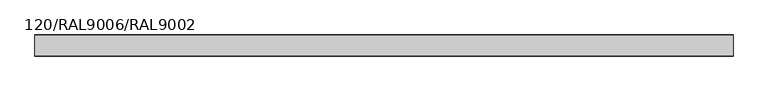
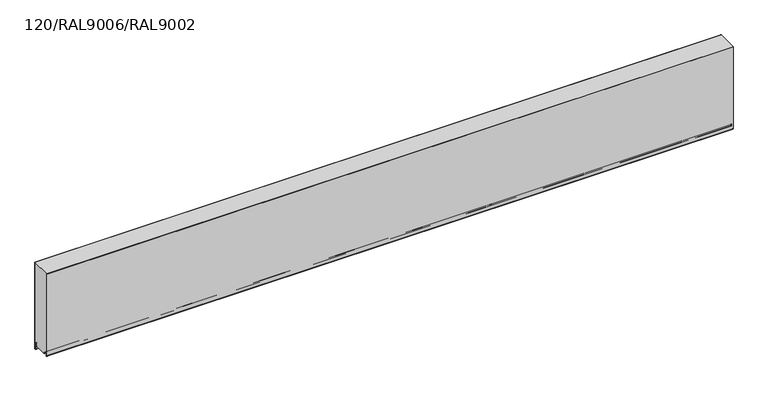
"""IFC4 building model written with IfcOpenShell, lengths in millimetres: plate geometry, TR_C_H_FHL_Panel_cut_GROOVE : 120/RAL9006/RAL9002."""

from ifc_helpers import new_model, si_unit, point, frame, frame_2d, origin, place, context, project, spatial, polyline, circle_curve, trimmed, segment, composite_curve, outline, extrude, source, transform, mapped, element, save


def plate_120_ral9006_ral9002_0d9f0b08(model_context):
    return source(origin(), model_context, "Body", "SweptSolid", [
        extrude(outline(composite_curve([segment(polyline([(-0.8, 15.9993484), (-12.3520294, 15.9993484)]), True, "CONTINUOUS"), segment(trimmed(circle_curve(frame_2d((-12.3520294, 11.0993484)), 4.9), [point((-12.3520294, 15.9993484))], [point((-17.2333835, 11.5264116))], True, "CARTESIAN"), True, "CONTINUOUS"), segment(polyline([(-17.2333835, 11.5264116), (-18.0972969, 1.6518352)]), True, "CONTINUOUS"), segment(trimmed(circle_curve(frame_2d((-19.7908279, 1.8)), 1.7), [point((-18.0972969, 1.6518352))], [point((-19.7908279, 0.1))], False, "CARTESIAN"), True, "CONTINUOUS"), segment(polyline([(-19.7908279, 0.1), (-20.8, 0.0), (-94.86, 0.0), (-94.86, 7.9), (-102.3925589, 7.9)]), True, "CONTINUOUS"), segment(trimmed(circle_curve(frame_2d((-102.3925589, 10.85)), 2.95), [point((-102.3925589, 7.9))], [point((-105.2977418, 10.3377379))], False, "CARTESIAN"), True, "CONTINUOUS"), segment(polyline([(-105.2977418, 10.3377379), (-106.364567, 16.3880048)]), True, "CONTINUOUS"), segment(trimmed(circle_curve(frame_2d((-110.55, 15.65)), 4.25), [point((-106.364567, 16.3880048))], [point((-110.55, 19.9))], True, "CARTESIAN"), True, "CONTINUOUS"), segment(polyline([(-110.55, 19.9), (-119.2, 19.9), (-119.2, 500.0), (-0.8, 500.0), (-0.8, 15.9993484)]), True, "CONTINUOUS")], self_intersect=False)), frame((-1980.0, 0.0, 0.0), z_axis=(1.0, 0.0, 0.0), x_axis=(0.0, 1.0, 0.0)), (0.0, 0.0, 1.0), 3960.0),
        extrude(outline(composite_curve([segment(polyline([(-20.8, -0.7), (-20.8, 0.1), (-19.7908279, 0.1)]), True, "CONTINUOUS"), segment(trimmed(circle_curve(frame_2d((-19.7908279, 1.8)), 1.7), [point((-19.7908279, 0.1))], [point((-18.0972969, 1.6518352))], True, "CARTESIAN"), True, "CONTINUOUS"), segment(polyline([(-18.0972969, 1.6518352), (-17.2333835, 11.5264116)]), True, "CONTINUOUS"), segment(trimmed(circle_curve(frame_2d((-12.3520294, 11.0993484)), 4.9), [point((-17.2333835, 11.5264116))], [point((-7.7189884, 12.6946324))], False, "CARTESIAN"), True, "CONTINUOUS"), segment(polyline([(-7.7189884, 12.6946324), (-5.3797887, 5.9011031)]), True, "CONTINUOUS"), segment(trimmed(circle_curve(frame_2d((-8.5, 4.8267282)), 3.3), [point((-5.3797887, 5.9011031))], [point((-5.2, 4.8267282))], False, "CARTESIAN"), True, "CONTINUOUS"), segment(polyline([(-5.2, 4.8267282), (-5.2, -27.5)]), True, "CONTINUOUS"), segment(trimmed(circle_curve(frame_2d((-4.1, -27.5)), 1.1), [point((-5.2, -27.5))], [point((-3.3498018, -28.3044891))], True, "CARTESIAN"), True, "CONTINUOUS"), segment(polyline([(-3.3498018, -28.3044891), (-1.4042031, -26.4901889)]), True, "CONTINUOUS"), segment(trimmed(circle_curve(frame_2d((-2.7, -25.1006169)), 1.9), [point((-1.4042031, -26.4901889))], [point((-0.8, -25.1006169))], True, "CARTESIAN"), True, "CONTINUOUS"), segment(polyline([(-0.8, -25.1006169), (-0.8, 500.0), (0.0, 500.0), (0.0, -25.1006169)]), True, "CONTINUOUS"), segment(trimmed(circle_curve(frame_2d((-2.7, -25.1006169)), 2.7), [point((0.0, -25.1006169))], [point((-0.8586044, -27.0752719))], False, "CARTESIAN"), True, "CONTINUOUS"), segment(polyline([(-0.8586044, -27.0752719), (-2.8042031, -28.889572)]), True, "CONTINUOUS"), segment(trimmed(circle_curve(frame_2d((-4.1, -27.5)), 1.9), [point((-2.8042031, -28.889572))], [point((-6.0, -27.5))], False, "CARTESIAN"), True, "CONTINUOUS"), segment(polyline([(-6.0, -27.5), (-6.0, 4.8267282)]), True, "CONTINUOUS"), segment(trimmed(circle_curve(frame_2d((-8.5, 4.8267282)), 2.5), [point((-6.0, 4.8267282))], [point((-6.1362036, 5.6406486))], True, "CARTESIAN"), True, "CONTINUOUS"), segment(polyline([(-6.1362036, 5.6406486), (-8.4754033, 12.4341779)]), True, "CONTINUOUS"), segment(trimmed(circle_curve(frame_2d((-12.3520294, 11.0993484)), 4.1), [point((-8.4754033, 12.4341779))], [point((-16.4364277, 11.456687))], True, "CARTESIAN"), True, "CONTINUOUS"), segment(polyline([(-16.4364277, 11.456687), (-17.3003412, 1.5821106)]), True, "CONTINUOUS"), segment(trimmed(circle_curve(frame_2d((-19.7908279, 1.8)), 2.5), [point((-17.3003412, 1.5821106))], [point((-19.7908279, -0.7))], False, "CARTESIAN"), True, "CONTINUOUS"), segment(polyline([(-19.7908279, -0.7), (-20.8, -0.7)]), True, "CONTINUOUS")], self_intersect=False)), frame((-1980.0, 0.0, 0.0), z_axis=(1.0, 0.0, 0.0), x_axis=(0.0, 1.0, 0.0)), (0.0, 0.0, 1.0), 3960.0),
        extrude(outline(composite_curve([segment(polyline([(-99.0, 7.1), (-102.3925589, 7.1)]), True, "CONTINUOUS"), segment(trimmed(circle_curve(frame_2d((-102.3925589, 10.85)), 3.75), [point((-102.3925589, 7.1))], [point((-106.085588, 10.1988193))], False, "CARTESIAN"), True, "CONTINUOUS"), segment(polyline([(-106.085588, 10.1988193), (-107.1524133, 16.2490862)]), True, "CONTINUOUS"), segment(trimmed(circle_curve(frame_2d((-110.55, 15.65)), 3.45), [point((-107.1524133, 16.2490862))], [point((-114.0, 15.65))], True, "CARTESIAN"), True, "CONTINUOUS"), segment(polyline([(-114.0, 15.65), (-114.0, -1.95)]), True, "CONTINUOUS"), segment(trimmed(circle_curve(frame_2d((-115.95, -1.95)), 1.95), [point((-114.0, -1.95))], [point((-117.3288582, -3.3288582))], False, "CARTESIAN"), True, "CONTINUOUS"), segment(polyline([(-117.3288582, -3.3288582), (-119.1945436, -1.4631728)]), True, "CONTINUOUS"), segment(trimmed(circle_curve(frame_2d((-117.25, 0.4813708)), 2.75), [point((-119.1945436, -1.4631728))], [point((-120.0, 0.4813708))], False, "CARTESIAN"), True, "CONTINUOUS"), segment(polyline([(-120.0, 0.4813708), (-120.0, 500.0), (-119.2, 500.0), (-119.2, 0.4813708)]), True, "CONTINUOUS"), segment(trimmed(circle_curve(frame_2d((-117.25, 0.4813708)), 1.95), [point((-119.2, 0.4813708))], [point((-118.6288582, -0.8974874))], True, "CARTESIAN"), True, "CONTINUOUS"), segment(polyline([(-118.6288582, -0.8974874), (-116.7631728, -2.7631728)]), True, "CONTINUOUS"), segment(trimmed(circle_curve(frame_2d((-115.95, -1.95)), 1.15), [point((-116.7631728, -2.7631728))], [point((-114.8, -1.95))], True, "CARTESIAN"), True, "CONTINUOUS"), segment(polyline([(-114.8, -1.95), (-114.8, 15.65)]), True, "CONTINUOUS"), segment(trimmed(circle_curve(frame_2d((-110.55, 15.65)), 4.25), [point((-114.8, 15.65))], [point((-106.364567, 16.3880048))], False, "CARTESIAN"), True, "CONTINUOUS"), segment(polyline([(-106.364567, 16.3880048), (-105.2977418, 10.3377379)]), True, "CONTINUOUS"), segment(trimmed(circle_curve(frame_2d((-102.3925589, 10.85)), 2.95), [point((-105.2977418, 10.3377379))], [point((-102.3925589, 7.9))], True, "CARTESIAN"), True, "CONTINUOUS"), segment(polyline([(-102.3925589, 7.9), (-99.0, 7.9), (-99.0, 7.1)]), True, "CONTINUOUS")], self_intersect=False)), frame((-1980.0, 0.0, 0.0), z_axis=(1.0, 0.0, 0.0), x_axis=(0.0, 1.0, 0.0)), (0.0, 0.0, 1.0), 3960.0),
    ])


if __name__ == "__main__":
    model = new_model("IFC4")
    model_context = context("Model", 3, world=origin())
    ifc_project = project(units=[si_unit("LENGTHUNIT", "METRE", prefix="MILLI")], contexts=[model_context])
    site = spatial("IfcSite", under=ifc_project)
    building = spatial("IfcBuilding", under=site)
    placement = place(None, origin())
    plate_120_ral9006_ral9002_shape = plate_120_ral9006_ral9002_0d9f0b08(model_context)
    element("IfcPlate", 1, ObjectType="TR_C_H_FHL_Panel_cut_GROOVE : 120/RAL9006/RAL9002", at=placement, inside=building, context=model_context, shape_type="MappedRepresentation", body=[
        mapped(plate_120_ral9006_ral9002_shape, transform((0.0, 0.0, 0.0), x_axis=(1.0, 0.0, 0.0), y_axis=(0.0, 1.0, 0.0), z_axis=(0.0, 0.0, 1.0))),
    ])
    save(model, "model.ifc")
